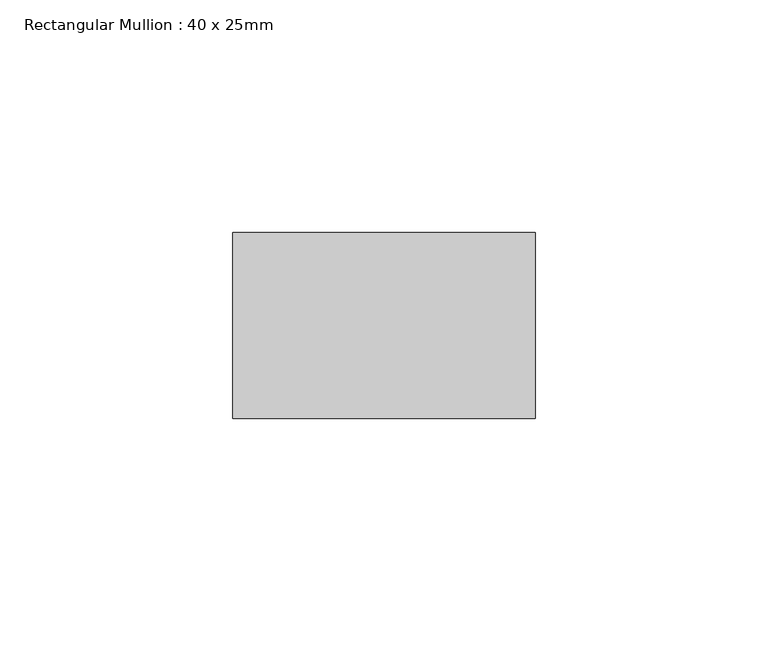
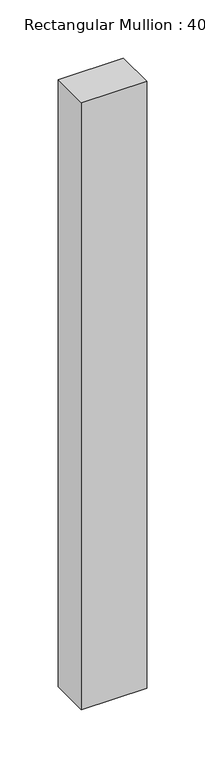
"""IFC4 building model written with IfcOpenShell, lengths in millimetres: member geometry, Rectangular Mullion : 40 x 25mm."""

from ifc_helpers import new_model, si_unit, frame, origin, place, context, project, spatial, polyline, outline, extrude, source, transform, mapped, element, save


def rectangular_mullion_40_x_25mm_a8d2ba7a(model_context):
    return source(origin(), model_context, "Body", "SweptSolid", [
        extrude(outline(polyline([(0.0, -20.0), (0.0, -60.0), (-65.0, -60.0), (-65.0, -20.0), (0.0, -20.0)])), frame((0.0, 0.0, -638.6843332), z_axis=(0.0, 0.0, 1.0), x_axis=(1.0, 0.0, 0.0)), (0.0, 0.0, 1.0), 638.6843332),
    ])


if __name__ == "__main__":
    model = new_model("IFC4")
    model_context = context("Model", 3, world=origin())
    ifc_project = project(units=[si_unit("LENGTHUNIT", "METRE", prefix="MILLI")], contexts=[model_context])
    site = spatial("IfcSite", under=ifc_project)
    building = spatial("IfcBuilding", under=site)
    placement = place(None, origin())
    rectangular_mullion_40_x_25mm_shape = rectangular_mullion_40_x_25mm_a8d2ba7a(model_context)
    element("IfcMember", 1, ObjectType="Rectangular Mullion : 40 x 25mm", at=placement, inside=building, context=model_context, shape_type="MappedRepresentation", body=[
        mapped(rectangular_mullion_40_x_25mm_shape, transform((0.0, 0.0, 0.0), x_axis=(1.0, 0.0, 0.0), y_axis=(0.0, 1.0, 0.0), z_axis=(0.0, 0.0, 1.0))),
    ])
    save(model, "model.ifc")
